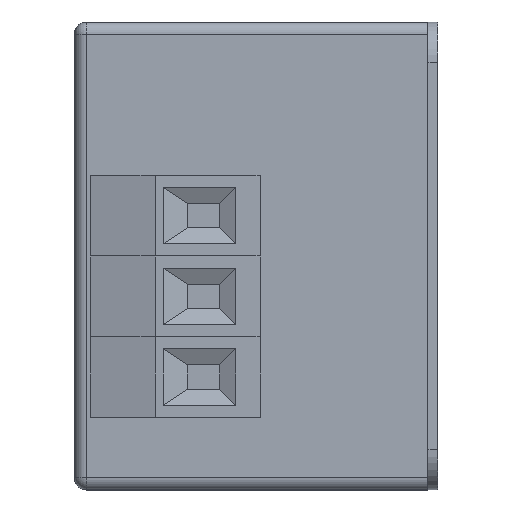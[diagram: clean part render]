
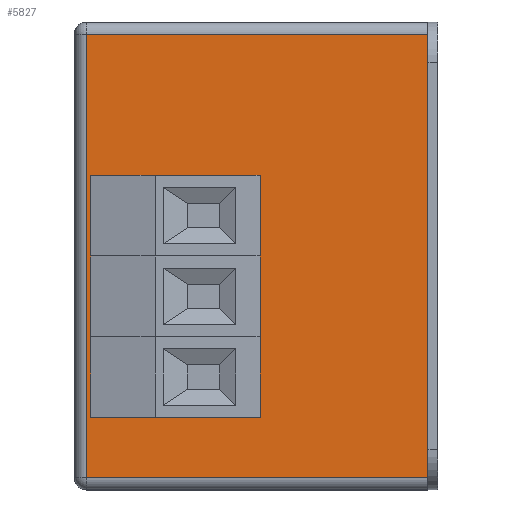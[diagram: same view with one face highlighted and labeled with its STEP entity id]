
A CAD part, left-side view. The second image highlights one B-rep face of the part: STEP entity #5827.
In plain terms, the highlighted planar face has unit normal (-1, 0, 0).
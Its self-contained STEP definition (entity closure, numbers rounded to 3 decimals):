
#276 = CARTESIAN_POINT ( 'NONE',  ( 10., 32., -34. ) ) ;
#344 = AXIS2_PLACEMENT_3D ( 'NONE', #7045, #7601, #1403 ) ;
#419 = AXIS2_PLACEMENT_3D ( 'NONE', #5884, #813, #3361 ) ;
#474 = ORIENTED_EDGE ( 'NONE', *, *, #3333, .F. ) ;
#503 = DIRECTION ( 'NONE',  ( -1., 0., 0. ) ) ;
#577 = EDGE_CURVE ( 'NONE', #2401, #4817, #3813, .T. ) ;
#645 = DIRECTION ( 'NONE',  ( -1., 0., 0. ) ) ;
#807 = VERTEX_POINT ( 'NONE', #3142 ) ;
#813 = DIRECTION ( 'NONE',  ( -1., 0., 0. ) ) ;
#988 = CIRCLE ( 'NONE', #344, 4.1 ) ;
#1106 = DIRECTION ( 'NONE',  ( 0., 0., 1. ) ) ;
#1180 = DIRECTION ( 'NONE',  ( 0., 0., -1. ) ) ;
#1397 = AXIS2_PLACEMENT_3D ( 'NONE', #1784, #2415, #1180 ) ;
#1403 = DIRECTION ( 'NONE',  ( 0., 0., 1. ) ) ;
#1628 = CIRCLE ( 'NONE', #2267, 4.1 ) ;
#1642 = EDGE_CURVE ( 'NONE', #5132, #2401, #3565, .T. ) ;
#1748 = ORIENTED_EDGE ( 'NONE', *, *, #3263, .T. ) ;
#1784 = CARTESIAN_POINT ( 'NONE',  ( 10., 45., 0. ) ) ;
#1904 = DIRECTION ( 'NONE',  ( 0., -1., 0. ) ) ;
#1918 = DIRECTION ( 'NONE',  ( 0., 0., 1. ) ) ;
#2071 = CIRCLE ( 'NONE', #5800, 4.1 ) ;
#2088 = CARTESIAN_POINT ( 'NONE',  ( 10., 43.5, -56.5 ) ) ;
#2124 = ORIENTED_EDGE ( 'NONE', *, *, #6679, .F. ) ;
#2168 = EDGE_LOOP ( 'NONE', ( #4615, #7389 ) ) ;
#2267 = AXIS2_PLACEMENT_3D ( 'NONE', #5141, #645, #5087 ) ;
#2302 = VERTEX_POINT ( 'NONE', #7634 ) ;
#2324 = DIRECTION ( 'NONE',  ( -1., 0., 0. ) ) ;
#2401 = VERTEX_POINT ( 'NONE', #4469 ) ;
#2415 = DIRECTION ( 'NONE',  ( 1., 0., 0. ) ) ;
#2858 = EDGE_LOOP ( 'NONE', ( #474, #2124 ) ) ;
#3063 = CIRCLE ( 'NONE', #5427, 4.1 ) ;
#3142 = CARTESIAN_POINT ( 'NONE',  ( 10., 32., -19.9 ) ) ;
#3263 = EDGE_CURVE ( 'NONE', #4817, #7787, #7311, .T. ) ;
#3289 = ORIENTED_EDGE ( 'NONE', *, *, #4234, .F. ) ;
#3333 = EDGE_CURVE ( 'NONE', #807, #4875, #3063, .T. ) ;
#3361 = DIRECTION ( 'NONE',  ( 0., 0., 1. ) ) ;
#3368 = VECTOR ( 'NONE', #6709, 1000. ) ;
#3565 = LINE ( 'NONE', #6115, #3368 ) ;
#3595 = CARTESIAN_POINT ( 'NONE',  ( 10., 45., -1.5 ) ) ;
#3616 = CARTESIAN_POINT ( 'NONE',  ( 10., 32., -34. ) ) ;
#3758 = CIRCLE ( 'NONE', #4361, 4.1 ) ;
#3813 = LINE ( 'NONE', #3595, #4499 ) ;
#3956 = VECTOR ( 'NONE', #5969, 1000. ) ;
#3958 = CARTESIAN_POINT ( 'NONE',  ( 10., 32., -28.1 ) ) ;
#4234 = EDGE_CURVE ( 'NONE', #5903, #6046, #2071, .T. ) ;
#4235 = ORIENTED_EDGE ( 'NONE', *, *, #6624, .T. ) ;
#4361 = AXIS2_PLACEMENT_3D ( 'NONE', #3616, #2324, #1106 ) ;
#4429 = ORIENTED_EDGE ( 'NONE', *, *, #6447, .F. ) ;
#4432 = CARTESIAN_POINT ( 'NONE',  ( 10., 32., -39.9 ) ) ;
#4469 = CARTESIAN_POINT ( 'NONE',  ( 10., 1.2, -1.5 ) ) ;
#4499 = VECTOR ( 'NONE', #4824, 1000. ) ;
#4544 = EDGE_CURVE ( 'NONE', #5099, #2302, #5709, .T. ) ;
#4615 = ORIENTED_EDGE ( 'NONE', *, *, #4544, .F. ) ;
#4635 = ORIENTED_EDGE ( 'NONE', *, *, #577, .T. ) ;
#4693 = DIRECTION ( 'NONE',  ( 0., 0., 1. ) ) ;
#4749 = DIRECTION ( 'NONE',  ( -1., 0., 0. ) ) ;
#4758 = FACE_BOUND ( 'NONE', #7410, .T. ) ;
#4767 = FACE_BOUND ( 'NONE', #2168, .T. ) ;
#4817 = VERTEX_POINT ( 'NONE', #7734 ) ;
#4824 = DIRECTION ( 'NONE',  ( 0., 1., 0. ) ) ;
#4875 = VERTEX_POINT ( 'NONE', #3958 ) ;
#4921 = PLANE ( 'NONE',  #1397 ) ;
#4967 = CARTESIAN_POINT ( 'NONE',  ( 10., 45., -56.5 ) ) ;
#5018 = CARTESIAN_POINT ( 'NONE',  ( 10., 32., -29.9 ) ) ;
#5087 = DIRECTION ( 'NONE',  ( 0., 0., 1. ) ) ;
#5099 = VERTEX_POINT ( 'NONE', #4432 ) ;
#5132 = VERTEX_POINT ( 'NONE', #5742 ) ;
#5141 = CARTESIAN_POINT ( 'NONE',  ( 10., 32., -44. ) ) ;
#5267 = EDGE_LOOP ( 'NONE', ( #7487, #4635, #1748, #4235 ) ) ;
#5427 = AXIS2_PLACEMENT_3D ( 'NONE', #7562, #503, #1918 ) ;
#5440 = CARTESIAN_POINT ( 'NONE',  ( 10., 43.5, 0. ) ) ;
#5526 = FACE_OUTER_BOUND ( 'NONE', #5267, .T. ) ;
#5709 = CIRCLE ( 'NONE', #419, 4.1 ) ;
#5742 = CARTESIAN_POINT ( 'NONE',  ( 10., 1.2, -56.5 ) ) ;
#5800 = AXIS2_PLACEMENT_3D ( 'NONE', #276, #4749, #4693 ) ;
#5827 = ADVANCED_FACE ( 'NONE', ( #4767, #7616, #4758, #5526 ), #4921, .F. ) ;
#5884 = CARTESIAN_POINT ( 'NONE',  ( 10., 32., -44. ) ) ;
#5903 = VERTEX_POINT ( 'NONE', #6274 ) ;
#5969 = DIRECTION ( 'NONE',  ( 0., 0., -1. ) ) ;
#6046 = VERTEX_POINT ( 'NONE', #5018 ) ;
#6115 = CARTESIAN_POINT ( 'NONE',  ( 10., 1.2, 0. ) ) ;
#6274 = CARTESIAN_POINT ( 'NONE',  ( 10., 32., -38.1 ) ) ;
#6447 = EDGE_CURVE ( 'NONE', #6046, #5903, #3758, .T. ) ;
#6624 = EDGE_CURVE ( 'NONE', #7787, #5132, #7983, .T. ) ;
#6679 = EDGE_CURVE ( 'NONE', #4875, #807, #988, .T. ) ;
#6709 = DIRECTION ( 'NONE',  ( 0., 0., 1. ) ) ;
#7045 = CARTESIAN_POINT ( 'NONE',  ( 10., 32., -24. ) ) ;
#7293 = VECTOR ( 'NONE', #1904, 1000. ) ;
#7311 = LINE ( 'NONE', #5440, #3956 ) ;
#7389 = ORIENTED_EDGE ( 'NONE', *, *, #7682, .F. ) ;
#7410 = EDGE_LOOP ( 'NONE', ( #4429, #3289 ) ) ;
#7487 = ORIENTED_EDGE ( 'NONE', *, *, #1642, .T. ) ;
#7562 = CARTESIAN_POINT ( 'NONE',  ( 10., 32., -24. ) ) ;
#7601 = DIRECTION ( 'NONE',  ( -1., 0., 0. ) ) ;
#7616 = FACE_BOUND ( 'NONE', #2858, .T. ) ;
#7634 = CARTESIAN_POINT ( 'NONE',  ( 10., 32., -48.1 ) ) ;
#7682 = EDGE_CURVE ( 'NONE', #2302, #5099, #1628, .T. ) ;
#7734 = CARTESIAN_POINT ( 'NONE',  ( 10., 43.5, -1.5 ) ) ;
#7787 = VERTEX_POINT ( 'NONE', #2088 ) ;
#7983 = LINE ( 'NONE', #4967, #7293 ) ;
